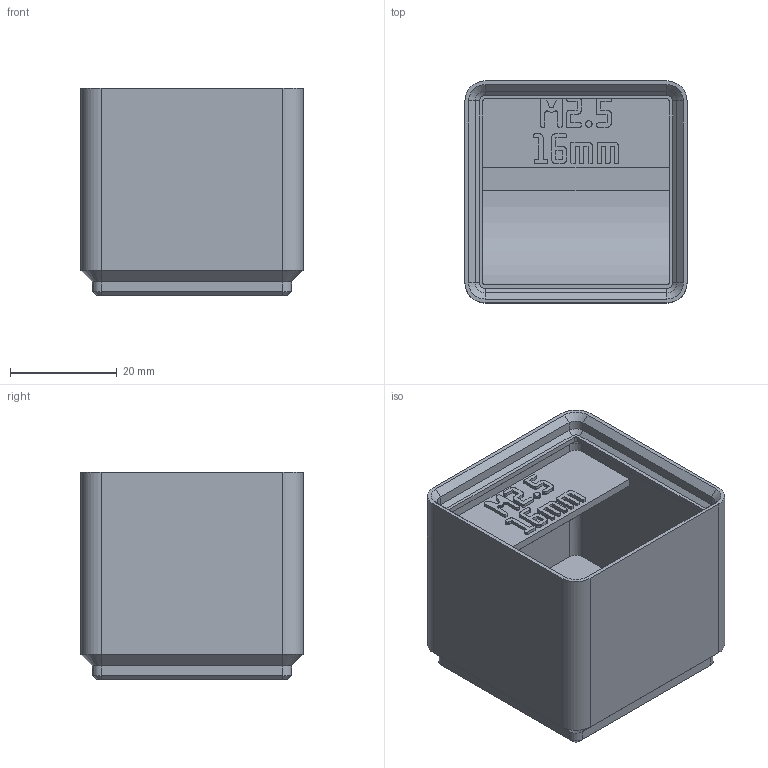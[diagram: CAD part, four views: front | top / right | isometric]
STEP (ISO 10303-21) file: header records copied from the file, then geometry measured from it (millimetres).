
FILE_DESCRIPTION(('Open CASCADE Model'),'2;1');
FILE_NAME('Open CASCADE Shape Model','2026-11-03T10:23:28',('Author'),( 'Open CASCADE'),'Open CASCADE STEP processor 8.0','build123d', 'Unknown');
FILE_SCHEMA(('AUTOMOTIVE_DESIGN { 1 0 10303 214 1 1 1 1 }'));
Products named in the file (1): COMPOUND
Bounding box: 41.5 x 41.5 x 38.8 mm (x, y, z)
Volume: 28182.7 mm3; surface area: 14261.4 mm2
Topology: 1 solids, 1 shells, 841 faces, 2428 edges, 1600 vertices
Faces by surface type: plane 798, cylinder 23, cone 20
Entity records: 57088 total; most frequent: CARTESIAN_POINT 11650, DIRECTION 7320, LINE 5508, VECTOR 5508, ORIENTED_EDGE 4856, PCURVE 4856, DEFINITIONAL_REPRESENTATION 4856, EDGE_CURVE 2428
